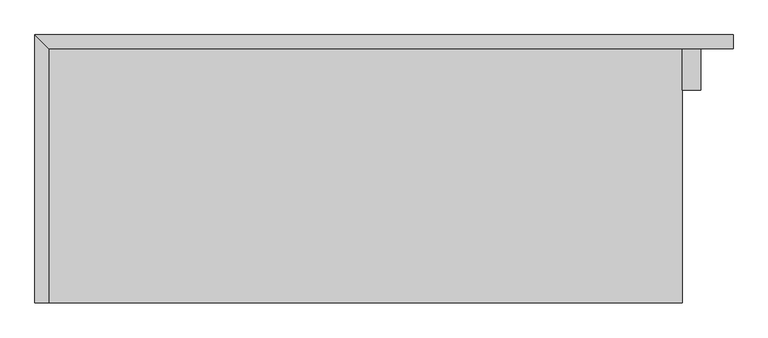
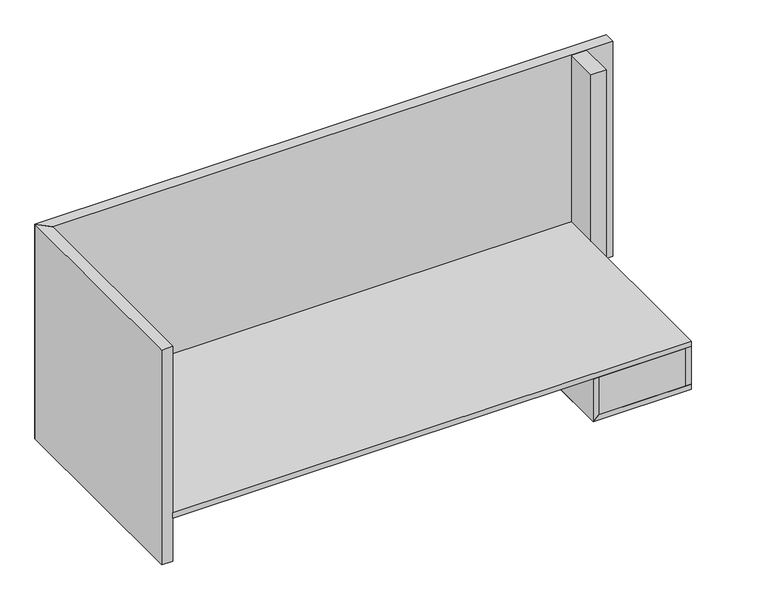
"""IFC4 building model written with IfcOpenShell, lengths in millimetres: proxy geometry, FOUNDATION^PO5_DESK-PARTS SOLID."""

from ifc_helpers import new_model, si_unit, frame, origin, origin_with_axes, place, context, project, spatial, polyline, outline, extrude, source, transform, mapped, element, save


def generic_models_ccaae10d(model_context):
    return source(origin(), model_context, "Body", "SweptSolid", [
        extrude(outline(polyline([(19.05, 1778.0), (19.05, 1466.85), (0.0, 1447.8), (0.0, 1778.0), (19.05, 1778.0)])), frame((0.0, 0.0, 0.0), z_axis=(0.0, 1.0, 0.0), x_axis=(0.0, 0.0, 1.0)), (0.0, 0.0, 1.0), 698.5),
        extrude(outline(polyline([(38.1, 698.5), (0.0, 736.6), (1917.7, 736.6), (1917.7, 698.5), (38.1, 698.5)])), origin_with_axes(), (0.0, 0.0, 1.0), 762.0),
        extrude(outline(polyline([(0.0, 1447.8), (19.05, 1466.85), (152.4, 1466.85), (152.4, 1447.8), (0.0, 1447.8)])), frame((0.0, 0.0, 0.0), z_axis=(0.0, 1.0, 0.0), x_axis=(0.0, 0.0, 1.0)), (0.0, 0.0, 1.0), 698.5),
        extrude(outline(polyline([(1778.0, 698.5), (1828.8, 698.5), (1828.8, 584.2), (1778.0, 584.2), (1778.0, 698.5)])), origin_with_axes(), (0.0, 0.0, 1.0), 762.0),
        extrude(outline(polyline([(38.1, 0.0), (38.1, 698.5), (1778.0, 698.5), (1778.0, 0.0), (38.1, 0.0)])), frame((0.0, 0.0, 152.4), z_axis=(0.0, 0.0, 1.0), x_axis=(1.0, 0.0, 0.0)), (0.0, 0.0, 1.0), 19.05),
        extrude(outline(polyline([(1758.95, 0.0), (1758.95, 698.5), (1778.0, 698.5), (1778.0, 0.0), (1758.95, 0.0)])), frame((0.0, 0.0, 19.05), z_axis=(0.0, 0.0, 1.0), x_axis=(1.0, 0.0, 0.0)), (0.0, 0.0, 1.0), 133.35),
        extrude(outline(polyline([(38.1, 0.0), (0.0, 0.0), (0.0, 736.6), (38.1, 698.5), (38.1, 0.0)])), origin_with_axes(), (0.0, 0.0, 1.0), 762.0),
        extrude(outline(polyline([(1758.95, 0.0), (1466.85, 0.0), (1466.85, 31.75), (1758.95, 31.75), (1758.95, 0.0)])), frame((0.0, 0.0, 19.05), z_axis=(0.0, 0.0, 1.0), x_axis=(1.0, 0.0, 0.0)), (0.0, 0.0, 1.0), 133.35),
    ])


if __name__ == "__main__":
    model = new_model("IFC4")
    model_context = context("Model", 3, world=origin())
    ifc_project = project(units=[si_unit("LENGTHUNIT", "METRE", prefix="MILLI")], contexts=[model_context])
    site = spatial("IfcSite", under=ifc_project)
    building = spatial("IfcBuilding", under=site)
    placement = place(None, origin())
    generic_models_shape = generic_models_ccaae10d(model_context)
    element("IfcBuildingElementProxy", 1, Name="FOUNDATION^PO5_DESK-PARTS SOLID", ObjectType="FOUNDATION^PO5_DESK-PARTS SOLID", at=placement, inside=building, context=model_context, shape_type="MappedRepresentation", body=[
        mapped(generic_models_shape, transform((0.0, 0.0, 0.0), x_axis=(1.0, 0.0, 0.0), y_axis=(0.0, 1.0, 0.0), z_axis=(0.0, 0.0, 1.0))),
    ])
    save(model, "model.ifc")
